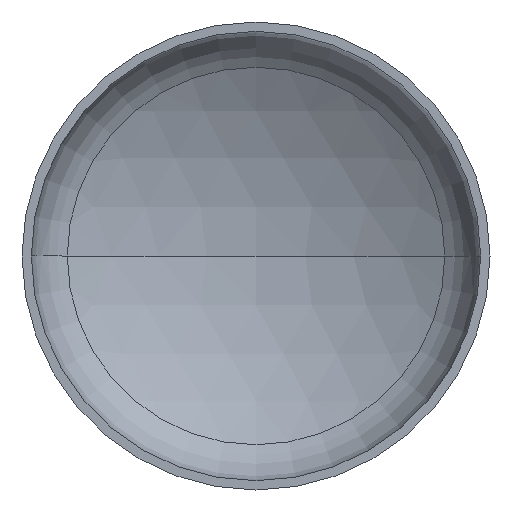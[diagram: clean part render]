
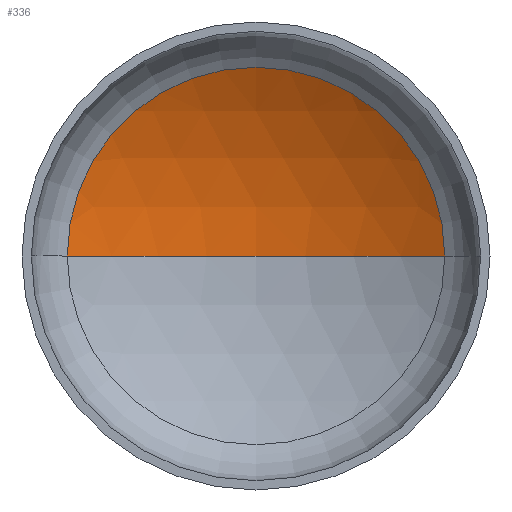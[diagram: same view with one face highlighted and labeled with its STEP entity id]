
A CAD part, front view. The second image highlights one B-rep face of the part: STEP entity #336.
In plain terms, the highlighted spherical face has radius 1760 mm.
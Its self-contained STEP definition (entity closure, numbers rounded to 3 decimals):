
#1 = ORIENTED_EDGE ( 'NONE', *, *, #237, .T. ) ;
#11 = ORIENTED_EDGE ( 'NONE', *, *, #242, .F. ) ;
#17 = EDGE_LOOP ( 'NONE', ( #11, #1, #103 ) ) ;
#23 = DIRECTION ( 'NONE',  ( 1., 0., 0. ) ) ;
#31 = DIRECTION ( 'NONE',  ( 0., 0., 1. ) ) ;
#38 = AXIS2_PLACEMENT_3D ( 'NONE', #145, #121, #324 ) ;
#46 = VERTEX_POINT ( 'NONE', #284 ) ;
#93 = VERTEX_POINT ( 'NONE', #333 ) ;
#96 = AXIS2_PLACEMENT_3D ( 'NONE', #156, #31, #23 ) ;
#101 = AXIS2_PLACEMENT_3D ( 'NONE', #241, #240, #234 ) ;
#103 = ORIENTED_EDGE ( 'NONE', *, *, #222, .T. ) ;
#120 = VERTEX_POINT ( 'NONE', #248 ) ;
#121 = DIRECTION ( 'NONE',  ( 0., 0., -1. ) ) ;
#134 = AXIS2_PLACEMENT_3D ( 'NONE', #362, #383, #258 ) ;
#145 = CARTESIAN_POINT ( 'NONE',  ( 0., -1086.272, 0. ) ) ;
#156 = CARTESIAN_POINT ( 'NONE',  ( 0., -1086.272, 0. ) ) ;
#190 = FACE_OUTER_BOUND ( 'NONE', #17, .T. ) ;
#215 = CIRCLE ( 'NONE', #101, 1760. ) ;
#222 = EDGE_CURVE ( 'NONE', #120, #93, #398, .T. ) ;
#234 = DIRECTION ( 'NONE',  ( -1., 0., 0. ) ) ;
#237 = EDGE_CURVE ( 'NONE', #46, #120, #215, .T. ) ;
#240 = DIRECTION ( 'NONE',  ( 0., 0., -1. ) ) ;
#241 = CARTESIAN_POINT ( 'NONE',  ( 0., -1086.272, 0. ) ) ;
#242 = EDGE_CURVE ( 'NONE', #46, #93, #393, .T. ) ;
#248 = CARTESIAN_POINT ( 'NONE',  ( 887.437, 433.615, 0. ) ) ;
#258 = DIRECTION ( 'NONE',  ( 1., 0., 0. ) ) ;
#284 = CARTESIAN_POINT ( 'NONE',  ( 0., 673.728, 0. ) ) ;
#324 = DIRECTION ( 'NONE',  ( -1., 0., 0. ) ) ;
#333 = CARTESIAN_POINT ( 'NONE',  ( -887.437, 433.615, 0. ) ) ;
#336 = ADVANCED_FACE ( 'NONE', ( #190 ), #382, .F. ) ;
#362 = CARTESIAN_POINT ( 'NONE',  ( 0., 433.615, 0. ) ) ;
#382 = SPHERICAL_SURFACE ( 'NONE', #38, 1760. ) ;
#383 = DIRECTION ( 'NONE',  ( 0., -1., 0. ) ) ;
#393 = CIRCLE ( 'NONE', #96, 1760. ) ;
#398 = CIRCLE ( 'NONE', #134, 887.437 ) ;
